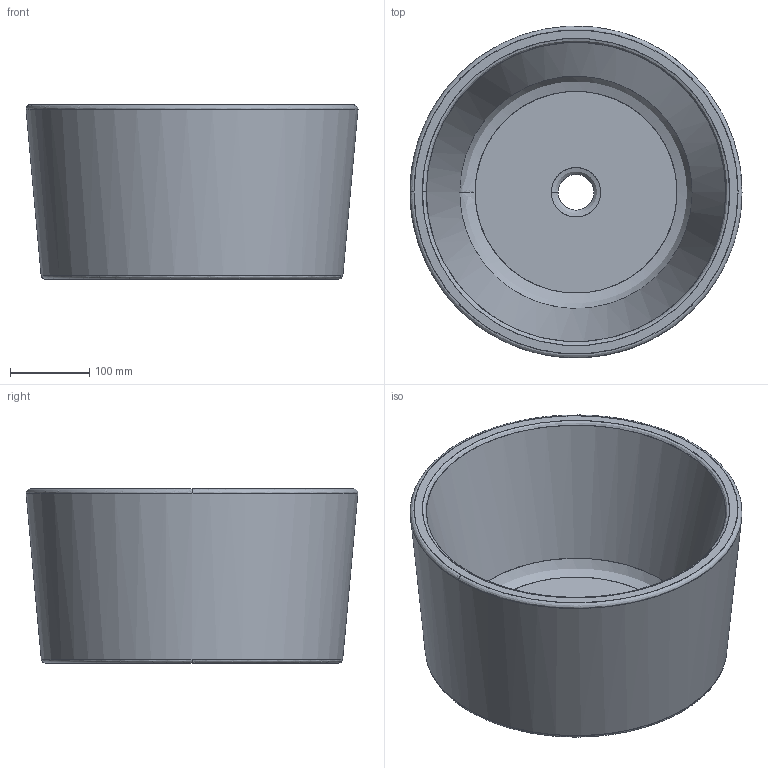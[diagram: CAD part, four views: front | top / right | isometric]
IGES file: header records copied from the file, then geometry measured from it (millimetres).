
Start section: C
Global section: file name: Bucket 42 H-22.igs; native system:  By UGS Corp.; preprocessor: XPlus GENERIC/IGES 3.0; author: Author; organization: Title; date: 20140108.102858; units: millimetre
Bounding box: 419.02 x 418.8 x 220 mm (x, y, z)
Surface area: 696118.7 mm2 (no closed solid volume)
Topology: 0 solids, 0 shells, 26 faces, 142 edges, 142 vertices
Faces by surface type: bspline 26
